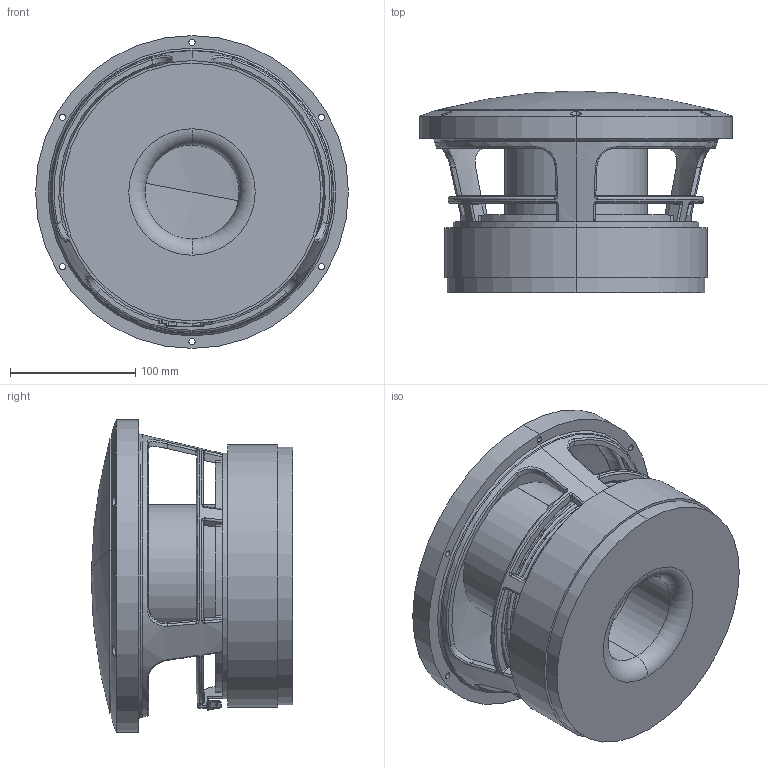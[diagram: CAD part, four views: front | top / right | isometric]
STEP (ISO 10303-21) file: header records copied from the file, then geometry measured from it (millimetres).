
FILE_DESCRIPTION (( 'STEP AP214' ), '1' );
FILE_NAME ('AS250-8-552.STEP', '2017-12-13T10:07:37', ( 'Thiel' ), ( '' ), 'SwSTEP 2.0', 'SolidWorks 2015', '' );
FILE_SCHEMA (( 'AUTOMOTIVE_DESIGN' ));
Length unit declared in the file: millimetre
Products named in the file (12): VC_Standard; GUS_Standard; ASM_Standard; TRM_Standard; NIE_Standard; TRM_6p3_Standard; TRM_4p8_Standard; TRM_Träger_Standard; ZEN_Standard; KRB_Standard; AS250-8-552; MGS_Standard
Assembly tree (12 placements, depth 3):
  AS250-8-552
    KRB_Standard
    ZEN_Standard
    TRM_Standard
      TRM_Träger_Standard
      TRM_4p8_Standard
      TRM_6p3_Standard
      NIE_Standard  x2
    ASM_Standard
    GUS_Standard
    VC_Standard
    MGS_Standard
Bounding box: 250 x 161.13 x 250 mm (x, y, z)
Volume: 2188688.2 mm3; surface area: 493416.7 mm2
Topology: 11 solids, 11 shells, 615 faces, 1473 edges, 850 vertices
Faces by surface type: cylinder 244, torus 129, plane 95, sphere 58, bspline 56, cone 33
Entity records: 21120 total; most frequent: CARTESIAN_POINT 6765, DIRECTION 3132, ORIENTED_EDGE 2806, EDGE_CURVE 1403, AXIS2_PLACEMENT_3D 1349, VERTEX_POINT 820, CIRCLE 791, EDGE_LOOP 663
